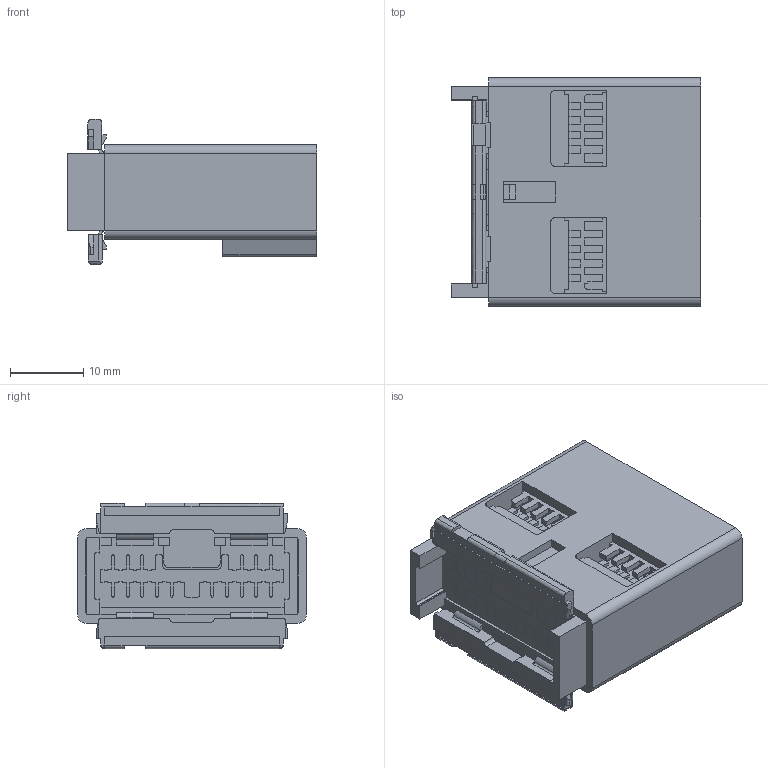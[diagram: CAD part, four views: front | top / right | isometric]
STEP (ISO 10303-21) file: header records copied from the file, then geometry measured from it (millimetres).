
FILE_DESCRIPTION((''),'2;1');
FILE_NAME('CU_MG641409_3D_030_20M_ASSY','2018-12-07T',('Administrator'),(''),'PRO/ENGINEER BY PARAMETRIC TECHNOLOGY CORPORATION, 2017170','PRO/ENGINEER BY PARAMETRIC TECHNOLOGY CORPORATION, 2017170','');
FILE_SCHEMA(('CONFIG_CONTROL_DESIGN','GEOMETRIC_VALIDATION_PROPERTIES_MIM'));
Length unit declared in the file: millimetre
Products named in the file (1): CU_MG641409_3D_030_20M_ASSY
Bounding box: 34.15 x 31.3 x 19.9 mm (x, y, z)
Surface area: 9598.4 mm2
Topology: 1 solids, 2 shells, 779 faces, 2459 edges, 1652 vertices
Faces by surface type: bspline 779
Entity records: 28682 total; most frequent: CARTESIAN_POINT 8718, ORIENTED_EDGE 4800, DIRECTION 2701, EDGE_CURVE 2459, VECTOR 2189, LINE 2189, VERTEX_POINT 1652, EDGE_LOOP 817
